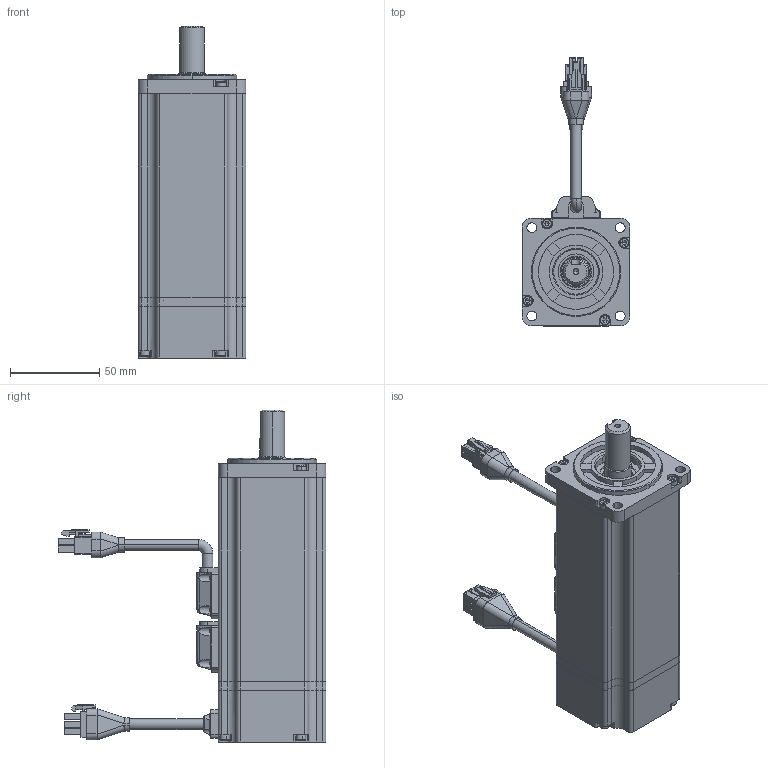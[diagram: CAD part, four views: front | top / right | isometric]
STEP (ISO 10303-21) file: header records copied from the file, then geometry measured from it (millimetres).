
FILE_DESCRIPTION (( 'STEP AP203' ), '1' );
FILE_NAME ('R60-400.STEP', '2019-08-23T05:43:42', ( '1' ), ( 'MideaGroup IT' ), 'SwSTEP 2.0', 'SolidWorks 2012', '' );
FILE_SCHEMA (( 'CONFIG_CONTROL_DESIGN' ));
Products named in the file (26): 蛌赽郪璃-001; 6003; 6003_qiu; 6003_bq; 6003_nh; 6003_wq; 萇儂粣-001; 綴裔-001; 綴傷裔-001; ヶ傷裔-001; 儂褲-001; R60-400; 雄薯盄揤裔郪璃; M3X28_GB_FASTENER_SCREWS_HSHCS M3X25-C; 雄薯盄傷赽裔; 雄薯盄; 雄薯盄傷赽; 雄薯盄躇猾菜; 雄薯盄揤裔; 毀嚏盄揤裔郪璃; 毀嚏盄傷赽揤裔; M2.5X5_GB_CROSS_SCREWS_TYPE3 M2.5X8-8-N; 晤鎢ん盄傷赽; 晤鎢ん盄揤裔躇猾; 晤鎢ん盄揤裔
Assembly tree (56 placements, depth 4):
  R60-400
    儂褲-001
    ヶ傷裔-001
    綴傷裔-001
    綴裔-001
    蛌赽郪璃-001
      萇儂粣-001
      6003
        6003_wq
        6003_nh
        6003_bq
        6003_qiu  x11
    毀嚏盄揤裔郪璃
      晤鎢ん盄揤裔
      晤鎢ん盄揤裔躇猾
      晤鎢ん盄傷赽
      M2.5X5_GB_CROSS_SCREWS_TYPE3 M2.5X8-8-N  x4
      毀嚏盄傷赽揤裔
    雄薯盄揤裔郪璃
      雄薯盄揤裔
      雄薯盄躇猾菜
      雄薯盄傷赽
      雄薯盄
      M2.5X5_GB_CROSS_SCREWS_TYPE3 M2.5X8-8-N  x4
      雄薯盄傷赽裔
    M3X28_GB_FASTENER_SCREWS_HSHCS M3X25-C  x8
    雄薯盄揤裔郪璃
      雄薯盄揤裔
      雄薯盄躇猾菜
      雄薯盄
      M2.5X5_GB_CROSS_SCREWS_TYPE3 M2.5X8-8-N  x4
Bounding box: 60.2 x 150 x 186 mm (x, y, z)
Volume: 175362.6 mm3; surface area: 123204.8 mm2
Topology: 56 solids, 82 shells, 1821 faces, 4936 edges, 3258 vertices
Faces by surface type: plane 904, cylinder 704, cone 89, torus 56, sphere 46, bspline 22
Entity records: 46488 total; most frequent: CARTESIAN_POINT 11883, DIRECTION 6580, ORIENTED_EDGE 6245, EDGE_CURVE 3303, AXIS2_PLACEMENT_3D 2329, VERTEX_POINT 2198, LINE 1922, VECTOR 1922
